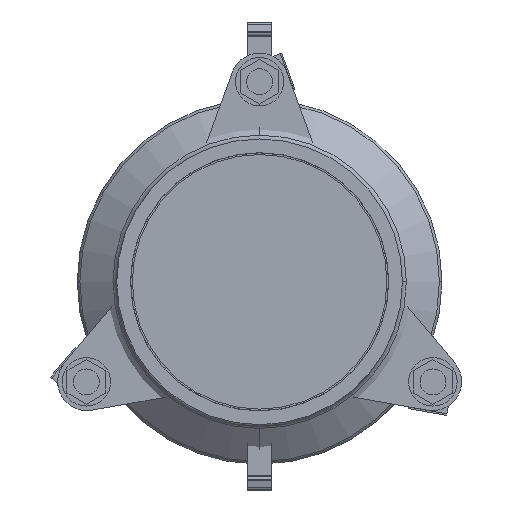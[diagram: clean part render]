
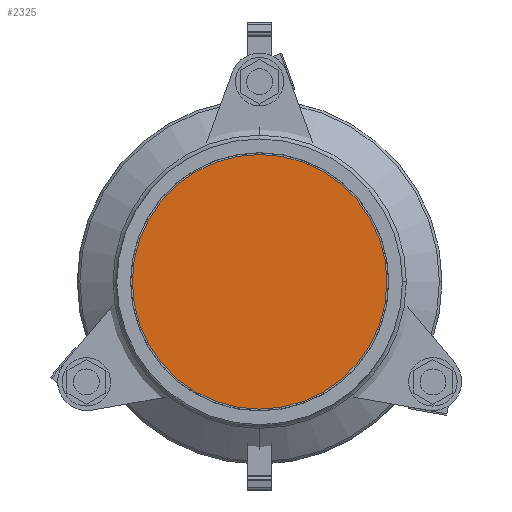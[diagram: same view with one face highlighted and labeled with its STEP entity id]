
A CAD part, left-side view. The second image highlights one B-rep face of the part: STEP entity #2325.
In plain terms, the highlighted planar face has unit normal (-1, 0, 0).
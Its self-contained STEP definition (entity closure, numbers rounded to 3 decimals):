
#2325=ADVANCED_FACE('',(#4241),#4242,.T.);
#4241=FACE_OUTER_BOUND('',#6256,.T.);
#4242=PLANE('',#6257);
#6256=EDGE_LOOP('',(#10588,#10589));
#6257=AXIS2_PLACEMENT_3D('',#10590,#10591,#10592);
#10588=ORIENTED_EDGE('',*,*,#12063,.T.);
#10589=ORIENTED_EDGE('',*,*,#11019,.T.);
#10590=CARTESIAN_POINT('',(23.5,0.0,0.0));
#10591=DIRECTION('',(-1.0,0.0,0.));
#10592=DIRECTION('',(0.,0.0,1.0));
#11019=EDGE_CURVE('',#12867,#12864,#12868,.T.);
#12063=EDGE_CURVE('',#12864,#12867,#14519,.T.);
#12864=VERTEX_POINT('',#15477);
#12867=VERTEX_POINT('',#15481);
#12868=CIRCLE('',#15482,88.5);
#14519=CIRCLE('',#17660,88.5);
#15477=CARTESIAN_POINT('',(23.5,0.0,-88.5));
#15481=CARTESIAN_POINT('',(23.5,0.,88.5));
#15482=AXIS2_PLACEMENT_3D('',#18777,#18778,#18779);
#17660=AXIS2_PLACEMENT_3D('',#20060,#20061,#20062);
#18777=CARTESIAN_POINT('',(23.5,0.0,0.0));
#18778=DIRECTION('',(-1.0,0.0,0.));
#18779=DIRECTION('',(0.,0.0,-1.0));
#20060=CARTESIAN_POINT('',(23.5,0.0,0.0));
#20061=DIRECTION('',(-1.0,0.0,0.));
#20062=DIRECTION('',(0.,0.0,-1.0));
